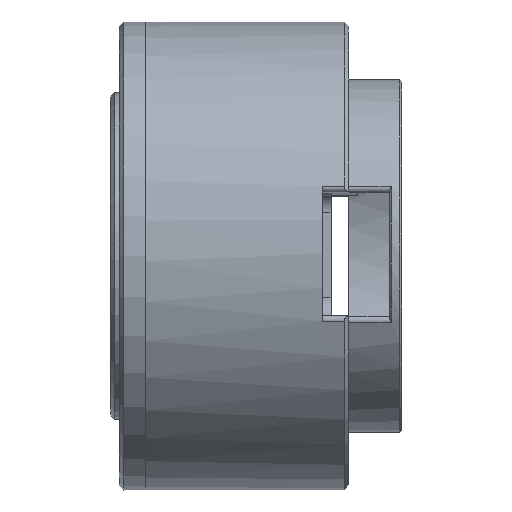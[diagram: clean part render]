
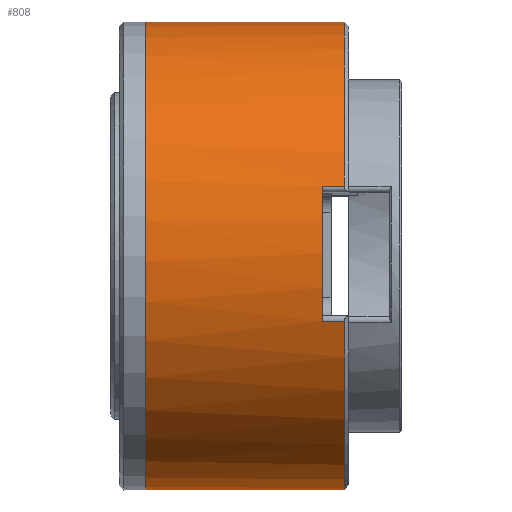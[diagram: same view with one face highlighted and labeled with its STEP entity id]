
A CAD part, front view. The second image highlights one B-rep face of the part: STEP entity #808.
In plain terms, the highlighted cylindrical face has radius 26.5 mm (diameter 53 mm), a partial arc.
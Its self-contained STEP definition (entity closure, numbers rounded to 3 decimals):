
#200 = ORIENTED_EDGE ( 'NONE', *, *, #9892, .T. ) ;
#638 = CARTESIAN_POINT ( 'NONE',  ( -23.51, -12.235, -26.5 ) ) ;
#689 = CARTESIAN_POINT ( 'NONE',  ( -21.76, -37.343, 8.477 ) ) ;
#692 = CARTESIAN_POINT ( 'NONE',  ( -23.51, -12.235, 26.5 ) ) ;
#799 = CYLINDRICAL_SURFACE ( 'NONE', #10565, 26.5 ) ;
#808 = ADVANCED_FACE ( 'NONE', ( #1704 ), #799, .T. ) ;
#943 = EDGE_CURVE ( 'NONE', #4407, #12460, #3222, .T. ) ;
#1093 = CIRCLE ( 'NONE', #2630, 26.5 ) ;
#1274 = VECTOR ( 'NONE', #5677, 1000. ) ;
#1346 = DIRECTION ( 'NONE',  ( 0., 0., -1. ) ) ;
#1434 = ORIENTED_EDGE ( 'NONE', *, *, #2135, .F. ) ;
#1459 = CARTESIAN_POINT ( 'NONE',  ( -24.26, -12.235, 0. ) ) ;
#1477 = EDGE_CURVE ( 'NONE', #12460, #12351, #1093, .T. ) ;
#1636 = VERTEX_POINT ( 'NONE', #7450 ) ;
#1704 = FACE_OUTER_BOUND ( 'NONE', #3241, .T. ) ;
#2099 = ORIENTED_EDGE ( 'NONE', *, *, #4267, .T. ) ;
#2135 = EDGE_CURVE ( 'NONE', #4761, #12351, #6729, .T. ) ;
#2341 = CIRCLE ( 'NONE', #7105, 26.5 ) ;
#2407 = DIRECTION ( 'NONE',  ( -1., 0., 0. ) ) ;
#2429 = VECTOR ( 'NONE', #4614, 1000. ) ;
#2534 = DIRECTION ( 'NONE',  ( 1., 0., 0. ) ) ;
#2538 = LINE ( 'NONE', #638, #10948 ) ;
#2630 = AXIS2_PLACEMENT_3D ( 'NONE', #11842, #7933, #4088 ) ;
#2924 = ORIENTED_EDGE ( 'NONE', *, *, #6905, .T. ) ;
#3222 = LINE ( 'NONE', #6925, #5366 ) ;
#3241 = EDGE_LOOP ( 'NONE', ( #1434, #200, #2099, #4082, #6817, #2924, #6594, #6271 ) ) ;
#3527 = CARTESIAN_POINT ( 'NONE',  ( -21.76, -12.235, 0. ) ) ;
#3601 = VERTEX_POINT ( 'NONE', #4007 ) ;
#3641 = VERTEX_POINT ( 'NONE', #9955 ) ;
#3845 = CARTESIAN_POINT ( 'NONE',  ( -23.51, -12.235, 0. ) ) ;
#4007 = CARTESIAN_POINT ( 'NONE',  ( -24.26, -37.847, -6.803 ) ) ;
#4082 = ORIENTED_EDGE ( 'NONE', *, *, #4246, .T. ) ;
#4088 = DIRECTION ( 'NONE',  ( 0., 0., -1. ) ) ;
#4246 = EDGE_CURVE ( 'NONE', #1636, #9812, #11246, .T. ) ;
#4267 = EDGE_CURVE ( 'NONE', #3641, #1636, #2538, .T. ) ;
#4407 = VERTEX_POINT ( 'NONE', #5586 ) ;
#4614 = DIRECTION ( 'NONE',  ( 1., 0., 0. ) ) ;
#4715 = CARTESIAN_POINT ( 'NONE',  ( -23.51, -37.847, -6.803 ) ) ;
#4761 = VERTEX_POINT ( 'NONE', #9111 ) ;
#4985 = DIRECTION ( 'NONE',  ( 1., 0., 0. ) ) ;
#5211 = CIRCLE ( 'NONE', #6684, 26.5 ) ;
#5366 = VECTOR ( 'NONE', #4985, 1000. ) ;
#5586 = CARTESIAN_POINT ( 'NONE',  ( -24.26, -37.343, 8.477 ) ) ;
#5677 = DIRECTION ( 'NONE',  ( -1., 0., 0. ) ) ;
#6145 = DIRECTION ( 'NONE',  ( 1., 0., 0. ) ) ;
#6271 = ORIENTED_EDGE ( 'NONE', *, *, #1477, .T. ) ;
#6594 = ORIENTED_EDGE ( 'NONE', *, *, #943, .T. ) ;
#6684 = AXIS2_PLACEMENT_3D ( 'NONE', #11898, #6145, #1346 ) ;
#6729 = LINE ( 'NONE', #692, #2429 ) ;
#6817 = ORIENTED_EDGE ( 'NONE', *, *, #6928, .T. ) ;
#6905 = EDGE_CURVE ( 'NONE', #3601, #4407, #2341, .T. ) ;
#6925 = CARTESIAN_POINT ( 'NONE',  ( -23.51, -37.343, 8.477 ) ) ;
#6928 = EDGE_CURVE ( 'NONE', #9812, #3601, #11051, .T. ) ;
#7105 = AXIS2_PLACEMENT_3D ( 'NONE', #1459, #8307, #9282 ) ;
#7450 = CARTESIAN_POINT ( 'NONE',  ( -21.76, -12.235, -26.5 ) ) ;
#7933 = DIRECTION ( 'NONE',  ( -1., 0., 0. ) ) ;
#8307 = DIRECTION ( 'NONE',  ( -1., 0., 0. ) ) ;
#8628 = DIRECTION ( 'NONE',  ( 0., 0., -1. ) ) ;
#9111 = CARTESIAN_POINT ( 'NONE',  ( -44.26, -12.235, 26.5 ) ) ;
#9222 = CARTESIAN_POINT ( 'NONE',  ( -21.76, -12.235, 26.5 ) ) ;
#9282 = DIRECTION ( 'NONE',  ( 0., 0., -1. ) ) ;
#9812 = VERTEX_POINT ( 'NONE', #11554 ) ;
#9892 = EDGE_CURVE ( 'NONE', #4761, #3641, #5211, .T. ) ;
#9955 = CARTESIAN_POINT ( 'NONE',  ( -44.26, -12.235, -26.5 ) ) ;
#10344 = DIRECTION ( 'NONE',  ( 0., 0., -1. ) ) ;
#10565 = AXIS2_PLACEMENT_3D ( 'NONE', #3845, #12575, #8628 ) ;
#10847 = AXIS2_PLACEMENT_3D ( 'NONE', #3527, #2407, #10344 ) ;
#10948 = VECTOR ( 'NONE', #2534, 1000. ) ;
#11051 = LINE ( 'NONE', #4715, #1274 ) ;
#11246 = CIRCLE ( 'NONE', #10847, 26.5 ) ;
#11554 = CARTESIAN_POINT ( 'NONE',  ( -21.76, -37.847, -6.803 ) ) ;
#11842 = CARTESIAN_POINT ( 'NONE',  ( -21.76, -12.235, 0. ) ) ;
#11898 = CARTESIAN_POINT ( 'NONE',  ( -44.26, -12.235, 0. ) ) ;
#12351 = VERTEX_POINT ( 'NONE', #9222 ) ;
#12460 = VERTEX_POINT ( 'NONE', #689 ) ;
#12575 = DIRECTION ( 'NONE',  ( 1., 0., 0. ) ) ;
